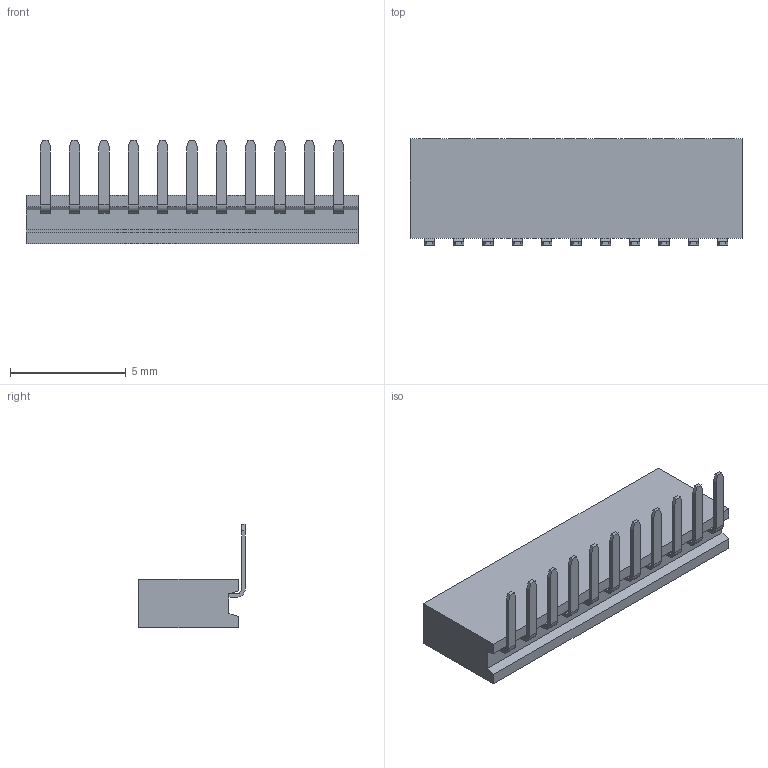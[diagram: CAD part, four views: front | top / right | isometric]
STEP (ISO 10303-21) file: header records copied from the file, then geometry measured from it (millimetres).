
FILE_DESCRIPTION(/* description */ (''),/* implementation_level */ '2;1');
FILE_NAME(/* name */ 'E:\工作文件\排针排母\PM排母\1.27\单排\W-弯针\PM127-1-11-W-4.3(单排 弯针 排母-HCTL).stp',/* time_stamp */ '2024-01-02T16:12:20+08:00',/* author */ ('admin'),/* organization */ (''),/* preprocessor_version */ 'ST-DEVELOPER v18.1',/* originating_system */ 'Autodesk Inventor 2021',/* authorisation */ '');
FILE_SCHEMA (('AUTOMOTIVE_DESIGN { 1 0 10303 214 3 1 1 }'));
Length unit declared in the file: millimetre
Products named in the file (1): PM127-1-1-W-4.3(单排 弯针 排母-
HCTL)
Bounding box: 14.37 x 4.6 x 4.5 mm (x, y, z)
Volume: 120.7 mm3; surface area: 298.3 mm2
Topology: 1 solids, 1 shells, 230 faces, 585 edges, 368 vertices
Faces by surface type: plane 208, cylinder 22
Entity records: 6786 total; most frequent: CARTESIAN_POINT 1184, ORIENTED_EDGE 1170, DIRECTION 1091, EDGE_CURVE 585, LINE 541, VECTOR 541, VERTEX_POINT 368, AXIS2_PLACEMENT_3D 275
